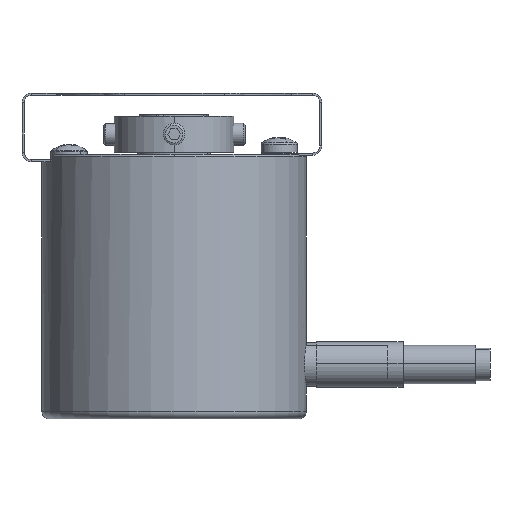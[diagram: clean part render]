
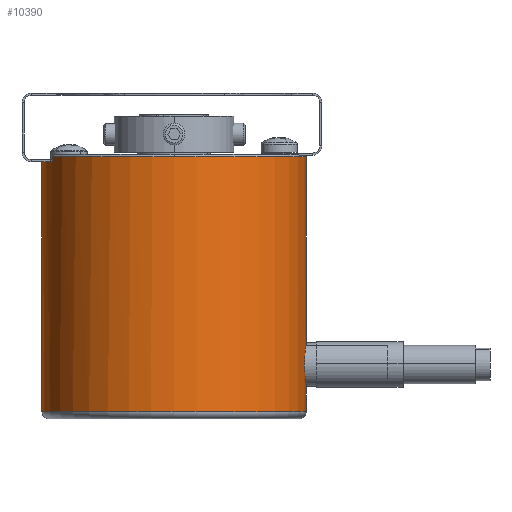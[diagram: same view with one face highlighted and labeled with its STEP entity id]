
A CAD part, left-side view. The second image highlights one B-rep face of the part: STEP entity #10390.
In plain terms, the highlighted cylindrical face has radius 18.25 mm (diameter 36.5 mm), a partial arc.
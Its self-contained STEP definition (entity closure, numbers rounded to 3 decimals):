
#66 = ORIENTED_EDGE ( 'NONE', *, *, #8207, .T. ) ;
#144 = CIRCLE ( 'NONE', #6569, 18.25 ) ;
#417 = CARTESIAN_POINT ( 'NONE',  ( -18.25, 0., -1.3 ) ) ;
#427 = CARTESIAN_POINT ( 'NONE',  ( -0.791, -18.234, -27.048 ) ) ;
#454 = CARTESIAN_POINT ( 'NONE',  ( -7., 16.854, -2. ) ) ;
#583 = CARTESIAN_POINT ( 'NONE',  ( -0.199, -18.25, -33.05 ) ) ;
#637 = CARTESIAN_POINT ( 'NONE',  ( -3.03, -17.997, -30.402 ) ) ;
#752 = CARTESIAN_POINT ( 'NONE',  ( 0., -18.25, -33.05 ) ) ;
#770 = DIRECTION ( 'NONE',  ( 0., 0., 1. ) ) ;
#825 = CARTESIAN_POINT ( 'NONE',  ( -2.894, -18.019, -29.016 ) ) ;
#998 = CARTESIAN_POINT ( 'NONE',  ( 0., -18.25, -36.5 ) ) ;
#1284 = DIRECTION ( 'NONE',  ( 1., 0., 0. ) ) ;
#1332 = DIRECTION ( 'NONE',  ( 0., 0., -1. ) ) ;
#1488 = EDGE_CURVE ( 'NONE', #8869, #6973, #6984, .T. ) ;
#1492 = CIRCLE ( 'NONE', #3512, 18.25 ) ;
#1619 = CARTESIAN_POINT ( 'NONE',  ( -1.531, -18.186, -32.646 ) ) ;
#1791 = EDGE_LOOP ( 'NONE', ( #11239, #11304, #8310, #8819, #66, #10380, #10890, #7987, #6662, #3411 ) ) ;
#2057 = DIRECTION ( 'NONE',  ( 0., 0., 1. ) ) ;
#2218 = VERTEX_POINT ( 'NONE', #998 ) ;
#2276 = VERTEX_POINT ( 'NONE', #7215 ) ;
#2320 = DIRECTION ( 'NONE',  ( 1., 0., 0. ) ) ;
#2439 = DIRECTION ( 'NONE',  ( 0., 0., -1. ) ) ;
#2484 = CARTESIAN_POINT ( 'NONE',  ( -2.952, -18.01, -30.793 ) ) ;
#2492 = VERTEX_POINT ( 'NONE', #8584 ) ;
#2544 = CARTESIAN_POINT ( 'NONE',  ( -1.352, -18.201, -32.741 ) ) ;
#2761 = CARTESIAN_POINT ( 'NONE',  ( 0., 0., 0. ) ) ;
#2901 = EDGE_CURVE ( 'NONE', #8122, #11244, #8208, .T. ) ;
#2923 = CIRCLE ( 'NONE', #7883, 18.25 ) ;
#2945 = EDGE_CURVE ( 'NONE', #2492, #9048, #10382, .T. ) ;
#3077 = CARTESIAN_POINT ( 'NONE',  ( -1.529, -18.187, -27.354 ) ) ;
#3310 = CARTESIAN_POINT ( 'NONE',  ( -2.647, -18.057, -28.472 ) ) ;
#3348 = DIRECTION ( 'NONE',  ( 0., 1., 0. ) ) ;
#3396 = CARTESIAN_POINT ( 'NONE',  ( -2.425, -18.089, -31.861 ) ) ;
#3411 = ORIENTED_EDGE ( 'NONE', *, *, #4783, .F. ) ;
#3412 = LINE ( 'NONE', #6237, #5315 ) ;
#3512 = AXIS2_PLACEMENT_3D ( 'NONE', #10182, #1332, #2320 ) ;
#3643 = CARTESIAN_POINT ( 'NONE',  ( 0., 18.25, -2. ) ) ;
#4114 = CARTESIAN_POINT ( 'NONE',  ( 0., -18.25, -26.95 ) ) ;
#4211 = CARTESIAN_POINT ( 'NONE',  ( -3.05, -17.993, -30. ) ) ;
#4261 = CARTESIAN_POINT ( 'NONE',  ( -2.298, -18.105, -32.015 ) ) ;
#4329 = DIRECTION ( 'NONE',  ( 0., 0., 1. ) ) ;
#4399 = CARTESIAN_POINT ( 'NONE',  ( -2.017, -18.139, -27.704 ) ) ;
#4641 = CARTESIAN_POINT ( 'NONE',  ( 0., 18.25, -36.5 ) ) ;
#4648 = EDGE_CURVE ( 'NONE', #2218, #9048, #5617, .T. ) ;
#4668 = VERTEX_POINT ( 'NONE', #4641 ) ;
#4783 = EDGE_CURVE ( 'NONE', #4668, #5395, #4991, .T. ) ;
#4912 = VECTOR ( 'NONE', #4329, 1000. ) ;
#4991 = LINE ( 'NONE', #8547, #5436 ) ;
#5010 = CARTESIAN_POINT ( 'NONE',  ( -0.793, -18.234, -32.952 ) ) ;
#5128 = CARTESIAN_POINT ( 'NONE',  ( -0.402, -18.247, -33.03 ) ) ;
#5200 = EDGE_CURVE ( 'NONE', #2276, #2492, #7417, .T. ) ;
#5235 = CARTESIAN_POINT ( 'NONE',  ( 0., -18.25, -33.05 ) ) ;
#5260 = CARTESIAN_POINT ( 'NONE',  ( -3.05, -17.993, -30. ) ) ;
#5315 = VECTOR ( 'NONE', #770, 1000. ) ;
#5395 = VERTEX_POINT ( 'NONE', #3643 ) ;
#5436 = VECTOR ( 'NONE', #11014, 1000. ) ;
#5528 = EDGE_CURVE ( 'NONE', #11244, #6973, #1492, .T. ) ;
#5617 = LINE ( 'NONE', #8956, #7439 ) ;
#5726 = CARTESIAN_POINT ( 'NONE',  ( -1.861, -18.156, -27.575 ) ) ;
#5990 = DIRECTION ( 'NONE',  ( 1., 0., 0. ) ) ;
#6121 = CARTESIAN_POINT ( 'NONE',  ( -2.424, -18.089, -28.138 ) ) ;
#6237 = CARTESIAN_POINT ( 'NONE',  ( 0., -18.25, 0. ) ) ;
#6569 = AXIS2_PLACEMENT_3D ( 'NONE', #6814, #2439, #1284 ) ;
#6622 = CARTESIAN_POINT ( 'NONE',  ( -7., 16.854, -1.3 ) ) ;
#6662 = ORIENTED_EDGE ( 'NONE', *, *, #7728, .T. ) ;
#6737 = CARTESIAN_POINT ( 'NONE',  ( 0., -18.25, -1.3 ) ) ;
#6814 = CARTESIAN_POINT ( 'NONE',  ( 0., 0., -2. ) ) ;
#6909 = CARTESIAN_POINT ( 'NONE',  ( -2.014, -18.139, -32.299 ) ) ;
#6933 = CARTESIAN_POINT ( 'NONE',  ( -3.05, -17.993, -29.801 ) ) ;
#6973 = VERTEX_POINT ( 'NONE', #6622 ) ;
#6984 = LINE ( 'NONE', #8816, #4912 ) ;
#7185 = DIRECTION ( 'NONE',  ( 0., 0., 1. ) ) ;
#7215 = CARTESIAN_POINT ( 'NONE',  ( 0., -18.25, -26.95 ) ) ;
#7417 = B_SPLINE_CURVE_WITH_KNOTS ( 'NONE', 3,
 ( #4114, #7618, #7563, #427, #7443, #10932, #3077, #5726, #4399, #7899, #6121, #3310, #8592, #825, #7783, #11175, #6933, #5260 ),
 .UNSPECIFIED., .F., .F.,
 ( 4, 2, 2, 2, 2, 2, 2, 2, 4 ),
 ( 0., 0.001, 0.001, 0.002, 0.002, 0.003, 0.004, 0.004, 0.005 ),
 .UNSPECIFIED. ) ;
#7439 = VECTOR ( 'NONE', #2057, 1000. ) ;
#7443 = CARTESIAN_POINT ( 'NONE',  ( -0.985, -18.224, -27.106 ) ) ;
#7563 = CARTESIAN_POINT ( 'NONE',  ( -0.4, -18.247, -26.97 ) ) ;
#7618 = CARTESIAN_POINT ( 'NONE',  ( -0.202, -18.25, -26.95 ) ) ;
#7673 = AXIS2_PLACEMENT_3D ( 'NONE', #2761, #7185, #9985 ) ;
#7728 = EDGE_CURVE ( 'NONE', #8869, #5395, #144, .T. ) ;
#7783 = CARTESIAN_POINT ( 'NONE',  ( -2.952, -18.01, -29.208 ) ) ;
#7883 = AXIS2_PLACEMENT_3D ( 'NONE', #9609, #11213, #3348 ) ;
#7899 = CARTESIAN_POINT ( 'NONE',  ( -2.298, -18.105, -27.985 ) ) ;
#7987 = ORIENTED_EDGE ( 'NONE', *, *, #1488, .F. ) ;
#8122 = VERTEX_POINT ( 'NONE', #6737 ) ;
#8207 = EDGE_CURVE ( 'NONE', #2276, #8122, #3412, .T. ) ;
#8208 = CIRCLE ( 'NONE', #10598, 18.25 ) ;
#8310 = ORIENTED_EDGE ( 'NONE', *, *, #2945, .F. ) ;
#8547 = CARTESIAN_POINT ( 'NONE',  ( 0., 18.25, 0. ) ) ;
#8584 = CARTESIAN_POINT ( 'NONE',  ( -3.05, -17.993, -30. ) ) ;
#8592 = CARTESIAN_POINT ( 'NONE',  ( -2.742, -18.043, -28.649 ) ) ;
#8662 = EDGE_CURVE ( 'NONE', #4668, #2218, #2923, .T. ) ;
#8816 = CARTESIAN_POINT ( 'NONE',  ( -7., 16.854, -2. ) ) ;
#8819 = ORIENTED_EDGE ( 'NONE', *, *, #5200, .F. ) ;
#8869 = VERTEX_POINT ( 'NONE', #454 ) ;
#8956 = CARTESIAN_POINT ( 'NONE',  ( 0., -18.25, 0. ) ) ;
#9048 = VERTEX_POINT ( 'NONE', #5235 ) ;
#9491 = CARTESIAN_POINT ( 'NONE',  ( -2.645, -18.058, -31.531 ) ) ;
#9609 = CARTESIAN_POINT ( 'NONE',  ( 0., 0., -36.5 ) ) ;
#9985 = DIRECTION ( 'NONE',  ( 0., 1., 0. ) ) ;
#10175 = CARTESIAN_POINT ( 'NONE',  ( -2.741, -18.043, -31.353 ) ) ;
#10182 = CARTESIAN_POINT ( 'NONE',  ( 0., 0., -1.3 ) ) ;
#10240 = CARTESIAN_POINT ( 'NONE',  ( -2.894, -18.019, -30.983 ) ) ;
#10380 = ORIENTED_EDGE ( 'NONE', *, *, #2901, .T. ) ;
#10382 = B_SPLINE_CURVE_WITH_KNOTS ( 'NONE', 3,
 ( #4211, #11208, #637, #2484, #10240, #10175, #9491, #3396, #4261, #6909, #10404, #1619, #2544, #11089, #5010, #5128, #583, #752 ),
 .UNSPECIFIED., .F., .F.,
 ( 4, 2, 2, 2, 2, 2, 2, 2, 4 ),
 ( 0.005, 0.005, 0.006, 0.007, 0.007, 0.008, 0.008, 0.009, 0.01 ),
 .UNSPECIFIED. ) ;
#10390 = ADVANCED_FACE ( 'NONE', ( #10669 ), #10840, .T. ) ;
#10404 = CARTESIAN_POINT ( 'NONE',  ( -1.861, -18.156, -32.425 ) ) ;
#10598 = AXIS2_PLACEMENT_3D ( 'NONE', #10979, #11151, #5990 ) ;
#10669 = FACE_OUTER_BOUND ( 'NONE', #1791, .T. ) ;
#10840 = CYLINDRICAL_SURFACE ( 'NONE', #7673, 18.25 ) ;
#10890 = ORIENTED_EDGE ( 'NONE', *, *, #5528, .T. ) ;
#10932 = CARTESIAN_POINT ( 'NONE',  ( -1.354, -18.201, -27.26 ) ) ;
#10979 = CARTESIAN_POINT ( 'NONE',  ( 0., 0., -1.3 ) ) ;
#11014 = DIRECTION ( 'NONE',  ( 0., 0., 1. ) ) ;
#11089 = CARTESIAN_POINT ( 'NONE',  ( -0.983, -18.224, -32.894 ) ) ;
#11151 = DIRECTION ( 'NONE',  ( 0., 0., -1. ) ) ;
#11175 = CARTESIAN_POINT ( 'NONE',  ( -3.031, -17.997, -29.602 ) ) ;
#11208 = CARTESIAN_POINT ( 'NONE',  ( -3.05, -17.993, -30.199 ) ) ;
#11213 = DIRECTION ( 'NONE',  ( 0., 0., 1. ) ) ;
#11239 = ORIENTED_EDGE ( 'NONE', *, *, #8662, .T. ) ;
#11244 = VERTEX_POINT ( 'NONE', #417 ) ;
#11304 = ORIENTED_EDGE ( 'NONE', *, *, #4648, .T. ) ;
